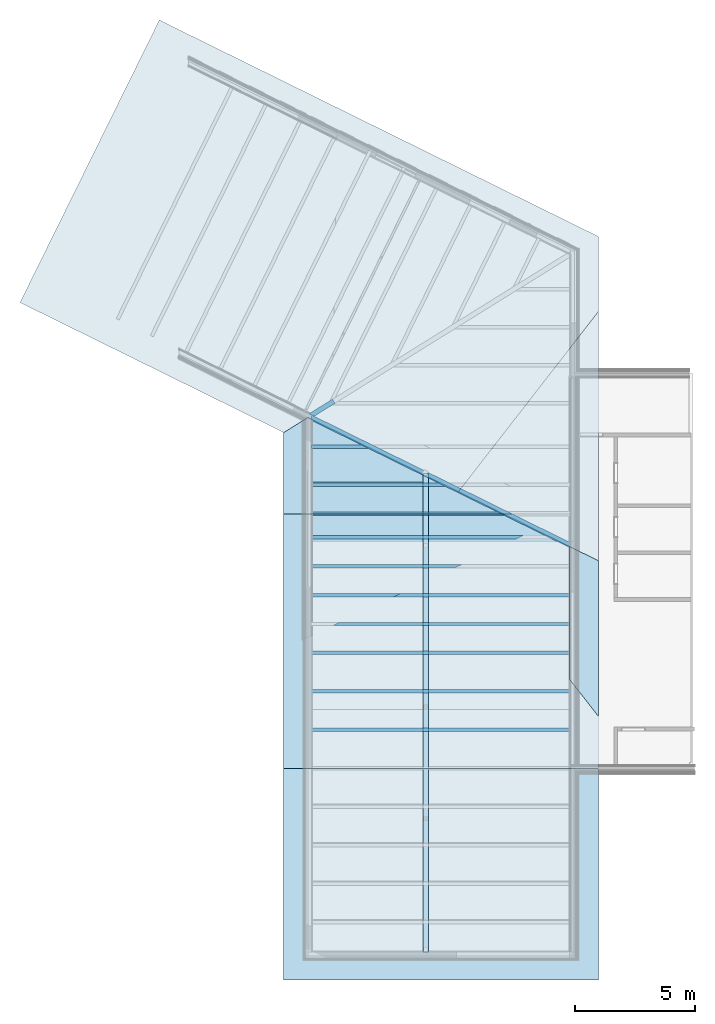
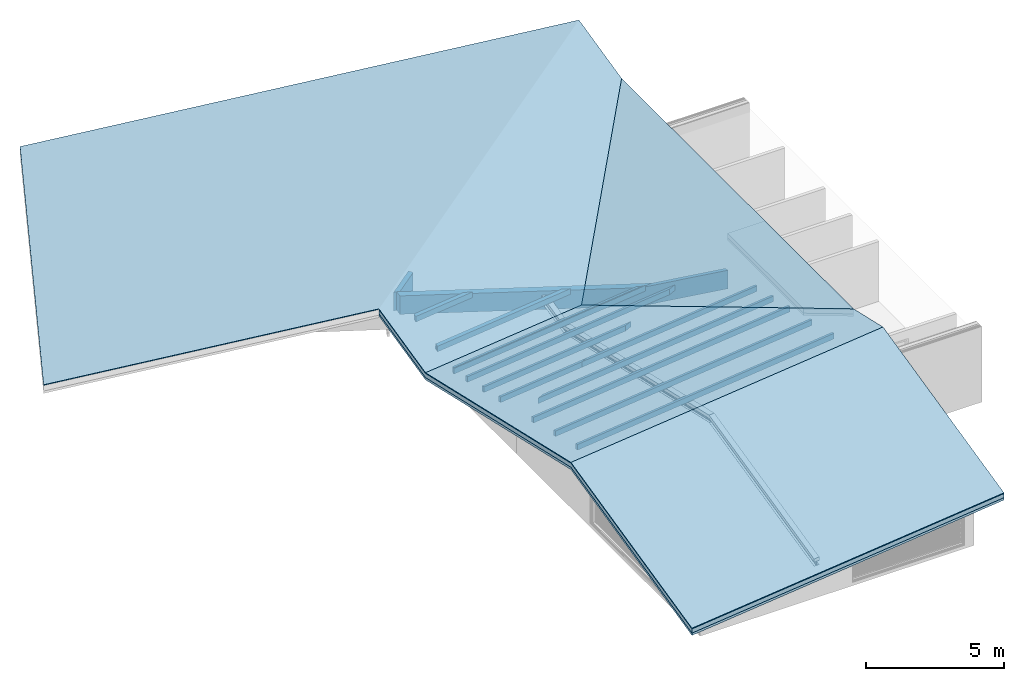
# One storey, part 12 of 14: 21 roofs.
"""IFC4 building model written with IfcOpenShell, lengths in metres."""

from ifc_helpers import new_model, entity, si_unit, converted_unit, derived_unit, frame, origin, place, context, subcontext, project, spatial, faceted_brep, material, element, save


model = new_model("IFC4")

# Units and contexts
model_context = context("Model", 3, precision=1e-05, world=origin())
body_context = subcontext(model_context, "Body", "Model", "MODEL_VIEW")
ifc_project = project(units=[si_unit("LENGTHUNIT", "METRE"), si_unit("AREAUNIT", "SQUARE_METRE"), si_unit("VOLUMEUNIT", "CUBIC_METRE"), si_unit("MASSUNIT", "GRAM", prefix="KILO"), converted_unit("PLANEANGLEUNIT", "DEGREE", entity("IfcPlaneAngleMeasure", 0.0174532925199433), si_unit("PLANEANGLEUNIT", "RADIAN"), dimensions=[0, 0, 0, 0, 0, 0, 0]), derived_unit("THERMALTRANSMITTANCEUNIT", [(si_unit("POWERUNIT", "WATT"), 1), (si_unit("THERMODYNAMICTEMPERATUREUNIT", "KELVIN"), -1), (si_unit("LENGTHUNIT", "METRE"), -2)]), derived_unit("VOLUMETRICFLOWRATEUNIT", [(si_unit("LENGTHUNIT", "METRE"), 3), (converted_unit("TIMEUNIT", "hour", entity("IfcTimeMeasure", 3600.0), si_unit("TIMEUNIT", "SECOND"), dimensions=[0, 0, 1, 0, 0, 0, 0]), -1), (si_unit("LENGTHUNIT", "METRE"), -1)])], contexts=[model_context])

# Site, building, storey
site_placement = place(None, origin())
site = spatial("IfcSite", under=ifc_project, at=site_placement, Name="Psychiatrie Neubau Wunstorf", CompositionType="ELEMENT")
building_placement = place(site_placement, origin())
building = spatial("IfcBuilding", under=site, at=building_placement, Name="Neubau H1 Sozialzentrum", CompositionType="ELEMENT")
storey_placement = place(building_placement, frame((0.0, 0.0, 4.45)))
storey = spatial("IfcBuildingStorey", under=building, at=storey_placement, Name="H1 Ebene +1", CompositionType="ELEMENT", Elevation=4.45)

# Roofs
ifc_material_1 = material(Name="Schwerlast-Deckenprofil")
roof_1_placement = place(storey_placement, frame((-16.0041462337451, 26.4968654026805, 0.403526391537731)))
element("IfcRoof", 1, at=roof_1_placement, inside=storey, material=ifc_material_1, PredefinedType="NOTDEFINED", context=body_context, shape_type="Brep", body=[
    faceted_brep([(0.0, 0.104152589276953, 0.0), (0.97208833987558, 0.70868446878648, 0.244742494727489), (0.97208833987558, 0.70868446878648, 1.06474249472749), (0.0, 0.104152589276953, 0.820000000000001), (1.02773992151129, 0.619196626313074, 1.07927492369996), (0.111441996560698, 0.0492056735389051, 0.848579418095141), (0.111441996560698, 0.0492056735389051, 0.0285794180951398), (1.02773992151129, 0.619196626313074, 0.259274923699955), (1.07770802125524, 0.538847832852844, 0.246226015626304), (1.07770802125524, 0.538847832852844, 1.0662260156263), (0.211239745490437, 0.0, 0.028109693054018), (0.211239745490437, 0.0, 0.848109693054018)], [[[0, 1, 2, 3]], [[3, 2, 4, 5]], [[1, 0, 6, 7]], [[8, 9, 4, 2, 1, 7]], [[8, 10, 11, 9]], [[10, 6, 0, 3, 5, 11]], [[11, 5, 4, 9]], [[6, 10, 8, 7]]], orient=[[False], [False], [False], [False], [False], [False], [False], [False]]),
])
ifc_material_2 = material(Name="Schwerlast-Deckenprofil")
roof_2_placement = place(storey_placement, frame((-15.8985267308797, 22.368112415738, 0.120141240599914)))
element("IfcRoof", 2, at=roof_2_placement, inside=storey, material=ifc_material_2, PredefinedType="NOTDEFINED", context=body_context, shape_type="Brep", body=[
    faceted_brep([(0.0, 0.14, 0.0168681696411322), (7.74325028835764, 0.14, 0.858525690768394), (7.74325028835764, 0.14, 1.10616972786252), (0.0, 0.14, 0.264512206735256), (7.89199642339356, 0.0666601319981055, 1.10546961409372), (0.0, 0.0666601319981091, 0.247644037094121), (0.0, 0.0666601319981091, 0.0), (7.89199642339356, 0.0666601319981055, 0.857825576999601), (0.0, 0.0, 0.0153318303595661), (0.0, 0.0, 0.262975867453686), (8.02719488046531, 0.0, 0.887852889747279), (8.02719488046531, 0.0, 1.1354969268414)], [[[0, 1, 2, 3]], [[3, 2, 4, 5]], [[1, 0, 6, 7]], [[8, 6, 0, 3, 5, 9]], [[10, 11, 4, 2, 1, 7]], [[10, 8, 9, 11]], [[11, 9, 5, 4]], [[8, 10, 7, 6]]], orient=[[False], [False], [False], [False], [False], [False], [False], [False]]),
])
ifc_material_3 = material(Name="Schwerlast-Deckenprofil")
roof_3_placement = place(storey_placement, frame((-15.8985257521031, 23.5772022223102, 0.38290017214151)))
element("IfcRoof", 3, at=roof_3_placement, inside=storey, material=ifc_material_3, PredefinedType="NOTDEFINED", context=body_context, shape_type="Brep", body=[
    faceted_brep([(5.57494738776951, 0.0, 0.605972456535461), (0.0, 0.0, 0.0), (0.0, 0.0, 0.247644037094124), (5.57494738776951, 0.0, 0.853616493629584), (0.0, 0.14, 0.0322000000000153), (0.0, 0.14, 0.279844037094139), (5.29100279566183, 0.14, 0.607308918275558), (5.29100279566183, 0.14, 0.854952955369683)], [[[0, 1, 2, 3]], [[1, 4, 5, 2]], [[4, 6, 7, 5]], [[6, 0, 3, 7]], [[7, 3, 2, 5]], [[0, 6, 4, 1]]], orient=[[False], [False], [False], [False], [False], [False]]),
])
ifc_material_4 = material(Name="Schwerlast-Deckenprofil")
roof_4_placement = place(storey_placement, frame((-15.8985267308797, 25.1572022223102, 0.746300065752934)))
element("IfcRoof", 4, at=roof_4_placement, inside=storey, material=ifc_material_4, PredefinedType="NOTDEFINED", context=body_context, shape_type="Brep", body=[
    faceted_brep([(2.37043082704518, 0.0, 0.257655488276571), (0.0, 0.0, 0.0), (0.0, 0.0, 0.247644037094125), (2.37043082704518, 0.0, 0.505299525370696), (0.0, 0.14, 0.0322000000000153), (0.0, 0.14, 0.27984403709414), (2.0864862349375, 0.14, 0.258991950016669), (2.0864862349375, 0.14, 0.506635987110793)], [[[0, 1, 2, 3]], [[1, 4, 5, 2]], [[4, 6, 7, 5]], [[6, 0, 3, 7]], [[7, 3, 2, 5]], [[0, 6, 4, 1]]], orient=[[False], [False], [False], [False], [False], [False]]),
])
ifc_material_5 = material(Name="Schwerlast-Deckenprofil")
roof_5_placement = place(storey_placement, frame((-15.8985267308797, 21.3903211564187, 0.328165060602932)))
element("IfcRoof", 5, at=roof_5_placement, inside=storey, material=ifc_material_5, PredefinedType="NOTDEFINED", context=body_context, shape_type="Brep", body=[
    faceted_brep([(0.0, 0.14, 0.0), (8.77972588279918, 0.14, 0.954317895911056), (8.77972588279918, 0.14, 1.20196193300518), (0.0, 0.14, 0.247644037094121), (8.48348570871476, 0.0, 0.954317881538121), (8.48348570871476, 0.0, 1.20196191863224), (0.0, 0.0, 0.0321999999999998), (0.0, 0.0, 0.279844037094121)], [[[0, 1, 2, 3]], [[1, 4, 5, 2]], [[4, 6, 7, 5]], [[6, 0, 3, 7]], [[7, 3, 2, 5]], [[0, 6, 4, 1]]], orient=[[False], [False], [False], [False], [False], [False]]),
])
ifc_material_6 = material(Name="Schwerlast-Deckenprofil")
roof_6_placement = place(storey_placement, frame((-15.8985267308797, 20.1903211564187, 0.604165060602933)))
element("IfcRoof", 6, at=roof_6_placement, inside=storey, material=ifc_material_6, PredefinedType="NOTDEFINED", context=body_context, shape_type="Brep", body=[
    faceted_brep([(0.0, 0.14, 0.0), (6.24052439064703, 0.14, 0.678317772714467), (6.24052439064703, 0.14, 0.925961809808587), (0.0, 0.14, 0.247644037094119), (5.94428421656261, 0.0, 0.678317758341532), (5.94428421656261, 0.0, 0.925961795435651), (0.0, 0.0, 0.0321999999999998), (0.0, 0.0, 0.27984403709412)], [[[0, 1, 2, 3]], [[1, 4, 5, 2]], [[4, 6, 7, 5]], [[6, 0, 3, 7]], [[7, 3, 2, 5]], [[0, 6, 4, 1]]], orient=[[False], [False], [False], [False], [False], [False]]),
])
ifc_material_7 = material(Name="Schwerlast-Deckenprofil")
roof_7_placement = place(storey_placement, frame((-15.8985267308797, 18.9903211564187, 0.880165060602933)))
element("IfcRoof", 7, at=roof_7_placement, inside=storey, material=ifc_material_7, PredefinedType="NOTDEFINED", context=body_context, shape_type="Brep", body=[
    faceted_brep([(0.0, 0.14, 0.0), (3.70132289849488, 0.14, 0.402317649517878), (3.70132289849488, 0.14, 0.649961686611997), (0.0, 0.14, 0.247644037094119), (3.40508272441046, 0.0, 0.402317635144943), (3.40508272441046, 0.0, 0.649961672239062), (0.0, 0.0, 0.0321999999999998), (0.0, 0.0, 0.27984403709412)], [[[0, 1, 2, 3]], [[1, 4, 5, 2]], [[4, 6, 7, 5]], [[6, 0, 3, 7]], [[7, 3, 2, 5]], [[0, 6, 4, 1]]], orient=[[False], [False], [False], [False], [False], [False]]),
])
ifc_material_8 = material(Name="Schwerlast-Deckenprofil")
roof_8_placement = place(storey_placement, frame((-11.2645268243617, 4.22632131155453, 0.293290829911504)))
element("IfcRoof", 8, at=roof_8_placement, inside=storey, material=ifc_material_8, PredefinedType="NOTDEFINED", context=body_context, shape_type="Brep", body=[
    faceted_brep([(0.22, 0.0, 0.862390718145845), (0.0, 0.0, 0.862390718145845), (0.0, 7.63400005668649, 2.61821073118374), (0.22, 7.63400005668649, 2.61821073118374), (0.1315, 0.0, 0.852643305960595), (0.22, 0.0, 0.852643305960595), (0.22, 7.63400005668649, 2.60846331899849), (0.1315, 7.63400005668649, 2.60846331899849), (0.125937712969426, 0.0, 0.851862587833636), (0.125937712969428, 7.63400005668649, 2.60768260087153), (0.120919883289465, 0.0, 0.849597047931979), (0.120919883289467, 7.63400005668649, 2.60541706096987), (0.116937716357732, 0.0, 0.846068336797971), (0.116937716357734, 7.63400005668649, 2.60188834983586), (0.114381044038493, 0.0, 0.841621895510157), (0.114381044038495, 7.63400005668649, 2.59744190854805), (0.1135, 0.0, 0.836692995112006), (0.1135, 7.63400005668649, 2.5925130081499), (0.114381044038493, 0.0, 0.697072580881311), (0.1135, 0.0, 0.702001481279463), (0.1135, 7.63400005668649, 2.45782149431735), (0.114381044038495, 7.63400005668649, 2.4528925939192), (0.116937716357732, 0.0, 0.692626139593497), (0.116937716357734, 7.63400005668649, 2.44844615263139), (0.120919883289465, 0.0, 0.68909742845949), (0.120919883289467, 7.63400005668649, 2.44491744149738), (0.125937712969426, 0.0, 0.686831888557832), (0.125937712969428, 7.63400005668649, 2.44265190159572), (0.1315, 0.0, 0.686051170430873), (0.1315, 7.63400005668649, 2.44187118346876), (0.22, 0.0, 0.686051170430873), (0.22, 7.63400005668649, 2.44187118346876), (0.0, 0.0, 0.676303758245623), (0.22, 0.0, 0.676303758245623), (0.22, 7.63400005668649, 2.43212377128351), (0.0, 7.63400005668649, 2.43212377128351), (0.0885, 0.0, 0.686051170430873), (0.0, 0.0, 0.686051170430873), (0.0, 7.63400005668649, 2.44187118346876), (0.0885000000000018, 7.63400005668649, 2.44187118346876), (0.0940622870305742, 0.0, 0.686831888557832), (0.0940622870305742, 7.63400005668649, 2.44265190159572), (0.0990801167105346, 0.0, 0.68909742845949), (0.0990801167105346, 7.63400005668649, 2.44491744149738), (0.103062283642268, 0.0, 0.692626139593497), (0.10306228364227, 7.63400005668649, 2.44844615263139), (0.105618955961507, 0.0, 0.697072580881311), (0.105618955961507, 7.63400005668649, 2.4528925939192), (0.1065, 0.0, 0.702001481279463), (0.106500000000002, 7.63400005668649, 2.45782149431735), (0.105618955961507, 0.0, 0.841621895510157), (0.1065, 0.0, 0.836692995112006), (0.106500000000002, 7.63400005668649, 2.5925130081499), (0.105618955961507, 7.63400005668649, 2.59744190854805), (0.103062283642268, 0.0, 0.846068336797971), (0.10306228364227, 7.63400005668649, 2.60188834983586), (0.0990801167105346, 0.0, 0.849597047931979), (0.0990801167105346, 7.63400005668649, 2.60541706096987), (0.0940622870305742, 0.0, 0.851862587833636), (0.0940622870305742, 7.63400005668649, 2.60768260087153), (0.0885, 0.0, 0.852643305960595), (0.0885000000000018, 7.63400005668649, 2.60846331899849), (0.0, 0.0, 0.852643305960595), (0.0, 7.63400005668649, 2.60846331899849), (0.0, 18.2084512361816, 0.186086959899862), (0.220000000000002, 18.2084512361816, 0.186086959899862), (0.220000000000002, 18.2084512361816, 0.176339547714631), (0.131500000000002, 18.2084512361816, 0.176339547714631), (0.125937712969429, 18.2084512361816, 0.175558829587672), (0.120919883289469, 18.2084512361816, 0.173293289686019), (0.116937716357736, 18.2084512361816, 0.169764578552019), (0.114381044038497, 18.2084512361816, 0.165318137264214), (0.113500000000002, 18.2084512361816, 0.160389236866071), (0.113500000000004, 18.2084512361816, 0.0256977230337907), (0.114381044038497, 18.2084512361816, 0.0207688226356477), (0.116937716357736, 18.2084512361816, 0.0163223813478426), (0.120919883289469, 18.2084512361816, 0.0127936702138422), (0.125937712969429, 18.2084512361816, 0.0105281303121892), (0.131500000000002, 18.2084512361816, 0.00974741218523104), (0.220000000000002, 18.2084512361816, 0.00974741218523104), (0.220000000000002, 18.2084512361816, 0.0), (0.0, 18.2084512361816, 0.0), (0.0, 18.2084512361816, 0.00974741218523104), (0.0885000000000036, 18.2084512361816, 0.00974741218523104), (0.0940622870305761, 18.2084512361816, 0.0105281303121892), (0.0990801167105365, 18.2084512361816, 0.0127936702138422), (0.103062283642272, 18.2084512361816, 0.0163223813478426), (0.105618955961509, 18.2084512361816, 0.0207688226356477), (0.106500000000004, 18.2084512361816, 0.0256977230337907), (0.106500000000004, 18.2084512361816, 0.160389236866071), (0.105618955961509, 18.2084512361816, 0.165318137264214), (0.103062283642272, 18.2084512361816, 0.169764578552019), (0.0990801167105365, 18.2084512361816, 0.173293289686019), (0.0940622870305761, 18.2084512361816, 0.175558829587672), (0.0885000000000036, 18.2084512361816, 0.176339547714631), (0.0, 18.2084512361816, 0.176339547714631), (0.0, 19.8999519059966, 0.57513211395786), (0.220000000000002, 19.8999519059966, 0.57513211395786), (0.220000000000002, 19.8999519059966, 0.56538470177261), (0.131500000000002, 19.8999519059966, 0.56538470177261), (0.125937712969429, 19.8999519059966, 0.56460398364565), (0.120919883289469, 19.8999519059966, 0.562338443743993), (0.116937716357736, 19.8999519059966, 0.558809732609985), (0.114381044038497, 19.8999519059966, 0.55436329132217), (0.113500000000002, 19.8999519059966, 0.549434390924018), (0.113500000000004, 19.8999519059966, 0.414742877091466), (0.114381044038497, 19.8999519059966, 0.409813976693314), (0.116937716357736, 19.8999519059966, 0.405367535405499), (0.120919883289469, 19.8999519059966, 0.401838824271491), (0.125937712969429, 19.8999519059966, 0.399573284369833), (0.131500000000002, 19.8999519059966, 0.398792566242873), (0.220000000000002, 19.8999519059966, 0.398792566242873), (0.220000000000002, 19.8999519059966, 0.389045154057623), (0.0, 19.8999519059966, 0.389045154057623), (0.0, 19.8999519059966, 0.398792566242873), (0.0885000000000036, 19.8999519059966, 0.398792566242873), (0.0940622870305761, 19.8999519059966, 0.399573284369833), (0.0990801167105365, 19.8999519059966, 0.401838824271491), (0.103062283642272, 19.8999519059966, 0.405367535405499), (0.105618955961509, 19.8999519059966, 0.409813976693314), (0.106500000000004, 19.8999519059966, 0.414742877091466), (0.106500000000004, 19.8999519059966, 0.549434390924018), (0.105618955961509, 19.8999519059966, 0.55436329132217), (0.103062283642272, 19.8999519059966, 0.558809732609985), (0.0990801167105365, 19.8999519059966, 0.562338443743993), (0.0940622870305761, 19.8999519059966, 0.56460398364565), (0.0885000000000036, 19.8999519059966, 0.56538470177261), (0.0, 19.8999519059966, 0.56538470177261)], [[[0, 1, 2, 3]], [[4, 5, 6, 7]], [[8, 4, 7, 9]], [[10, 8, 9, 11]], [[12, 10, 11, 13]], [[14, 12, 13, 15]], [[16, 14, 15, 17]], [[18, 19, 20, 21]], [[22, 18, 21, 23]], [[24, 22, 23, 25]], [[26, 24, 25, 27]], [[28, 26, 27, 29]], [[30, 28, 29, 31]], [[32, 33, 34, 35]], [[36, 37, 38, 39]], [[40, 36, 39, 41]], [[42, 40, 41, 43]], [[44, 42, 43, 45]], [[46, 44, 45, 47]], [[48, 46, 47, 49]], [[50, 51, 52, 53]], [[54, 50, 53, 55]], [[56, 54, 55, 57]], [[58, 56, 57, 59]], [[60, 58, 59, 61]], [[62, 60, 61, 63]], [[3, 2, 64, 65]], [[7, 6, 66, 67]], [[9, 7, 67, 68]], [[11, 9, 68, 69]], [[13, 11, 69, 70]], [[15, 13, 70, 71]], [[17, 15, 71, 72]], [[21, 20, 73, 74]], [[23, 21, 74, 75]], [[25, 23, 75, 76]], [[27, 25, 76, 77]], [[29, 27, 77, 78]], [[31, 29, 78, 79]], [[35, 34, 80, 81]], [[39, 38, 82, 83]], [[41, 39, 83, 84]], [[43, 41, 84, 85]], [[45, 43, 85, 86]], [[47, 45, 86, 87]], [[49, 47, 87, 88]], [[53, 52, 89, 90]], [[55, 53, 90, 91]], [[57, 55, 91, 92]], [[59, 57, 92, 93]], [[61, 59, 93, 94]], [[63, 61, 94, 95]], [[65, 64, 96, 97]], [[67, 66, 98, 99]], [[68, 67, 99, 100]], [[69, 68, 100, 101]], [[70, 69, 101, 102]], [[71, 70, 102, 103]], [[72, 71, 103, 104]], [[19, 16, 17, 72, 104, 105, 73, 20]], [[74, 73, 105, 106]], [[75, 74, 106, 107]], [[76, 75, 107, 108]], [[77, 76, 108, 109]], [[78, 77, 109, 110]], [[79, 78, 110, 111]], [[81, 80, 112, 113]], [[83, 82, 114, 115]], [[84, 83, 115, 116]], [[85, 84, 116, 117]], [[86, 85, 117, 118]], [[87, 86, 118, 119]], [[88, 87, 119, 120]], [[51, 48, 49, 88, 120, 121, 89, 52]], [[90, 89, 121, 122]], [[91, 90, 122, 123]], [[92, 91, 123, 124]], [[93, 92, 124, 125]], [[94, 93, 125, 126]], [[95, 94, 126, 127]], [[96, 127, 126, 125, 124, 123, 122, 121, 120, 119, 118, 117, 116, 115, 114, 113, 112, 111, 110, 109, 108, 107, 106, 105, 104, 103, 102, 101, 100, 99, 98, 97]], [[97, 98, 66, 6, 5, 0, 3, 65]], [[111, 112, 80, 34, 33, 30, 31, 79]], [[0, 5, 4, 8, 10, 12, 14, 16, 19, 18, 22, 24, 26, 28, 30, 33, 32, 37, 36, 40, 42, 44, 46, 48, 51, 50, 54, 56, 58, 60, 62, 1]], [[37, 32, 35, 81, 113, 114, 82, 38]], [[1, 62, 63, 95, 127, 96, 64, 2]]], orient=[[False], [False], [False], [False], [False], [False], [False], [False], [False], [False], [False], [False], [False], [False], [False], [False], [False], [False], [False], [False], [False], [False], [False], [False], [False], [False], [False], [False], [False], [False], [False], [False], [False], [False], [False], [False], [False], [False], [False], [False], [False], [False], [False], [False], [False], [False], [False], [False], [False], [False], [False], [False], [False], [False], [False], [False], [False], [False], [False], [False], [False], [False], [False], [False], [False], [False], [False], [False], [False], [False], [False], [False], [False], [False], [False], [False], [False], [False], [False], [False], [False], [False], [False], [False], [False], [False]]),
])
ifc_material_9 = material(Name="Schwerlast-Deckenprofil")
roof_9_placement = place(storey_placement, frame((-11.2645268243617, 4.22632131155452, 0.479377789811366)))
element("IfcRoof", 9, at=roof_9_placement, inside=storey, material=ifc_material_9, PredefinedType="NOTDEFINED", context=body_context, shape_type="Brep", body=[
    faceted_brep([(0.22, 0.0, 0.70021679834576), (0.0, 0.0, 0.676303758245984), (0.0, 0.0, 0.82076277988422), (0.22, 0.0, 0.844675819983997), (0.0, 7.63400005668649, 2.57658279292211), (0.22, 7.63400005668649, 2.60049583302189), (0.22, 7.63400005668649, 2.45603681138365), (0.0, 7.63400005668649, 2.43212377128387), (0.0, 18.2084512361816, 0.144459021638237), (0.220000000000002, 18.2084512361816, 0.168372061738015), (0.220000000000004, 19.8999519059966, 0.557417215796), (0.220000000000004, 19.8999519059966, 0.412958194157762), (0.220000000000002, 18.2084512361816, 0.0239130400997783), (0.0, 18.2084512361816, 0.0), (0.0, 19.8999519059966, 0.389045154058), (0.0, 19.8999519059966, 0.533504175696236)], [[[0, 1, 2, 3]], [[3, 2, 4, 5]], [[1, 0, 6, 7]], [[5, 4, 8, 9]], [[6, 0, 3, 5, 9, 10, 11, 12]], [[13, 14, 15, 8, 4, 2, 1, 7]], [[7, 6, 12, 13]], [[14, 11, 10, 15]], [[15, 10, 9, 8]], [[11, 14, 13, 12]]], orient=[[False], [False], [False], [False], [False], [False], [False], [False], [False], [False]]),
])
ifc_material_10 = material(Name="Schwerlast-Deckenprofil")
roof_10_placement = place(storey_placement, frame((-15.8985267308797, 21.034496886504, 0.343699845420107)))
element("IfcRoof", 10, at=roof_10_placement, inside=storey, material=ifc_material_10, PredefinedType="NOTDEFINED", context=body_context, shape_type="Brep", body=[
    faceted_brep([(0.0, 5.51444458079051, 0.906911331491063), (0.00582212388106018, 5.51157395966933, 0.908405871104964), (0.0, 5.50795225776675, 0.906940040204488), (0.00582212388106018, 5.51157395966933, 0.0884058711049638), (0.0, 5.51444458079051, 0.0869113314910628), (0.0, 5.50795225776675, 0.0869400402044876), (4.63399990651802, 3.0917763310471, 0.669182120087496), (4.63399990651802, 3.0917763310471, 0.314723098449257), (4.63399990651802, 3.0066436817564, 0.295142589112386), (4.63399990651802, 3.0066436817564, 0.649601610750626), (4.85399990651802, 3.0917763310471, 0.693095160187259), (4.85399990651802, 3.0917763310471, 0.338636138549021), (4.85399990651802, 2.89817181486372, 0.294107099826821), (4.85399990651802, 2.89817181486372, 0.648566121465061), (0.0, 5.2914555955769, 0.0371458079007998), (0.0, 5.2914555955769, 0.857145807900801), (8.34425725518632, 1.40027566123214, 0.869158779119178), (7.89199642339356, 1.40027566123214, 0.82), (7.89199642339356, 1.40027566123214, 0.0), (8.34425725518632, 1.40027566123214, 0.0491587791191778), (10.7320014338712, 0.0, 0.630759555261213), (10.7320014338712, 0.0, 1.45075955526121), (10.7320014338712, 0.222988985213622, 0.579472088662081), (10.7320014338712, 0.222988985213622, 1.39947208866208)], [[[0, 1, 2]], [[3, 4, 5]], [[6, 7, 8, 9]], [[10, 11, 7, 6]], [[11, 12, 8, 7]], [[13, 12, 11, 10]], [[6, 9, 13, 10]], [[14, 5, 4, 0, 2, 15]], [[15, 2, 1, 16, 17]], [[5, 14, 18, 19, 3]], [[20, 18, 14, 15, 17, 21], [13, 9, 8, 12]], [[22, 23, 16, 1, 0, 4, 3, 19]], [[22, 20, 21, 23]], [[23, 21, 17, 16]], [[20, 22, 19, 18]]], orient=[[False], [False], [False], [False], [False], [False], [False], [False], [False], [False], [False, False], [False], [False], [False], [False]]),
])
ifc_material_11 = material(Name="Schwerlast-Deckenprofil")
roof_11_placement = place(storey_placement, frame((-15.8985267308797, 14.9903211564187, 1.80016506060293)))
element("IfcRoof", 11, at=roof_11_placement, inside=storey, material=ifc_material_11, PredefinedType="NOTDEFINED", context=body_context, shape_type="Brep", body=[
    faceted_brep([(10.7680016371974, 0.0, 1.20263479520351), (0.0, 0.0, 0.0322000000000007), (0.0, 0.0, 0.27984403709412), (10.7680016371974, 0.0, 1.45027883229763), (0.0, 0.14, 0.0), (0.0, 0.14, 0.24764403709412), (10.7680016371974, 0.14, 1.17043479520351), (10.7680016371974, 0.14, 1.41807883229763)], [[[0, 1, 2, 3]], [[1, 4, 5, 2]], [[4, 6, 7, 5]], [[6, 0, 3, 7]], [[7, 3, 2, 5]], [[0, 6, 4, 1]]], orient=[[False], [False], [False], [False], [False], [False]]),
])
ifc_material_12 = material(Name="Schwerlast-Deckenprofil")
roof_12_placement = place(storey_placement, frame((-15.8985267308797, 16.5903211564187, 1.43216506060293)))
element("IfcRoof", 12, at=roof_12_placement, inside=storey, material=ifc_material_12, PredefinedType="NOTDEFINED", context=body_context, shape_type="Brep", body=[
    faceted_brep([(10.7680016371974, 0.0, 1.20263479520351), (0.0, 0.0, 0.0321999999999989), (0.0, 0.0, 0.279844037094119), (10.7680016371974, 0.0, 1.45027883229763), (0.0, 0.14, 0.0), (0.0, 0.14, 0.247644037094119), (10.7680016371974, 0.14, 1.17043479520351), (10.7680016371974, 0.14, 1.41807883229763)], [[[0, 1, 2, 3]], [[1, 4, 5, 2]], [[4, 6, 7, 5]], [[6, 0, 3, 7]], [[7, 3, 2, 5]], [[0, 6, 4, 1]]], orient=[[False], [False], [False], [False], [False], [False]]),
])
ifc_material_13 = material(Name="Schwerlast-Deckenprofil")
roof_13_placement = place(storey_placement, frame((-15.8985267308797, 13.3903211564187, 2.16816506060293)))
element("IfcRoof", 13, at=roof_13_placement, inside=storey, material=ifc_material_13, PredefinedType="NOTDEFINED", context=body_context, shape_type="Brep", body=[
    faceted_brep([(10.7680016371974, 0.0, 1.20263479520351), (0.0, 0.0, 0.0321999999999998), (0.0, 0.0, 0.279844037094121), (10.7680016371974, 0.0, 1.45027883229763), (0.0, 0.14, 0.0), (0.0, 0.14, 0.24764403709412), (10.7680016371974, 0.14, 1.17043479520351), (10.7680016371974, 0.14, 1.41807883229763)], [[[0, 1, 2, 3]], [[1, 4, 5, 2]], [[4, 6, 7, 5]], [[6, 0, 3, 7]], [[7, 3, 2, 5]], [[0, 6, 4, 1]]], orient=[[False], [False], [False], [False], [False], [False]]),
])
ifc_material_14 = material(Name="Schwerlast-Deckenprofil")
roof_14_placement = place(storey_placement, frame((-12.4934440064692, 18.9903211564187, 1.28248269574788)))
element("IfcRoof", 14, at=roof_14_placement, inside=storey, material=ifc_material_14, PredefinedType="NOTDEFINED", context=body_context, shape_type="Brep", body=[
    faceted_brep([(7.36291913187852, 0.0, 0.800317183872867), (0.0, 0.0, 0.0), (0.0, 0.0, 0.247644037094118), (7.36291913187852, 0.0, 1.04796122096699), (0.296240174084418, 0.14, 1.43729339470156e-08), (0.296240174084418, 0.14, 0.247644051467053), (7.36291913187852, 0.14, 0.768117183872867), (7.36291913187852, 0.14, 1.01576122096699)], [[[0, 1, 2, 3]], [[1, 4, 5, 2]], [[4, 6, 7, 5]], [[6, 0, 3, 7]], [[7, 3, 2, 5]], [[0, 6, 4, 1]]], orient=[[False], [False], [False], [False], [False], [False]]),
])
ifc_material_15 = material(Name="Schwerlast-Deckenprofil")
roof_15_placement = place(storey_placement, frame((-15.0326454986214, 17.7903211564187, 1.28248257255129)))
element("IfcRoof", 15, at=roof_15_placement, inside=storey, material=ifc_material_15, PredefinedType="NOTDEFINED", context=body_context, shape_type="Brep", body=[
    faceted_brep([(9.90212051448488, 0.0, 1.07631729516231), (0.0, 0.0, 0.0), (0.0, 0.0, 0.247644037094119), (9.90212051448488, 0.0, 1.32396133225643), (0.296240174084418, 0.14, 1.4372935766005e-08), (0.296240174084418, 0.14, 0.247644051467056), (9.90212051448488, 0.14, 1.04411729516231), (9.90212051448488, 0.14, 1.29176133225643)], [[[0, 1, 2, 3]], [[1, 4, 5, 2]], [[4, 6, 7, 5]], [[6, 0, 3, 7]], [[7, 3, 2, 5]], [[0, 6, 4, 1]]], orient=[[False], [False], [False], [False], [False], [False]]),
])
roof_16_placement = place(storey_placement, frame((-15.9008642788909, 23.5789633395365, 0.394184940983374)))
element("IfcRoof", 16, at=roof_16_placement, inside=storey, PredefinedType="NOTDEFINED", context=body_context, shape_type="Brep", body=[
    faceted_brep([(0.00402457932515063, 0.0, 0.235410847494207), (4.58844768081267, 1.21713310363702e-08, 0.733717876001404), (4.58779520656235, 0.0534961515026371, 0.498307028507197), (0.00337210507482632, 0.0534961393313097, 0.0), (4.58442310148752, 0.189973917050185, 0.529330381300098), (0.0, 0.189973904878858, 0.0310233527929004), (4.58507557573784, 0.136477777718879, 0.764741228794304), (0.000652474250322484, 0.136477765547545, 0.266434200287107)], [[[0, 1, 2, 3]], [[3, 2, 4, 5]], [[6, 4, 2, 1]], [[7, 0, 3, 5]], [[5, 4, 6, 7]], [[7, 6, 1, 0]]], orient=[[False], [False], [False], [False], [False], [False]]),
])
ifc_material_16 = material(Name="Dachhaut")
roof_17_placement = place(storey_placement, frame((-5.16652529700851, 14.0045944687, 3.10287755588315)))
element("IfcRoof", 17, at=roof_17_placement, inside=storey, material=ifc_material_16, PredefinedType="NOTDEFINED", context=body_context, shape_type="Brep", body=[
    faceted_brep([(1.20200024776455, 6.48184952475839, 0.486470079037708), (1.20200024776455, 0.0, 0.486470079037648), (1.20200024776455, 0.0, 0.594349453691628), (1.20200024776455, 6.48184952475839, 0.594349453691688), (0.0, 1.54703433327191, 0.0), (0.0, 1.54703433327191, 0.107879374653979), (0.0, 7.07450048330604, 0.0), (0.0, 7.07450048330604, 0.10787937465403)], [[[0, 1, 2, 3]], [[1, 4, 5, 2]], [[4, 6, 7, 5]], [[6, 0, 3, 7]], [[7, 3, 2, 5]], [[0, 6, 4, 1]]], orient=[[False], [False], [False], [False], [False], [False]]),
])
ifc_material_17 = material(Name="Dachhaut")
roof_18_placement = place(storey_placement, frame((-17.0645266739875, 3.06032136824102, 0.24104617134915)))
element("IfcRoof", 18, at=roof_18_placement, inside=storey, material=ifc_material_17, PredefinedType="NOTDEFINED", context=body_context, shape_type="Brep", body=[
    faceted_brep([(13.1000016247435, 0.0, 1.83203679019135), (0.0, 0.0, 0.408123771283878), (0.0, 0.0, 0.51130878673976), (13.1000016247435, 0.0, 1.93522180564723), (0.0, 8.8, 2.53530878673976), (13.1000016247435, 8.8, 3.95922180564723), (13.1000016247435, 8.8, 3.85603679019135), (0.0, 8.8, 2.43212377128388), (0.0, 19.3744511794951, 0.103185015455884), (9.14844907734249, 19.3744511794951, 1.09758151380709), (11.898001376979, 18.018773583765, 1.70825169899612), (11.898001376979, 12.4913074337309, 2.97956891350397), (13.1000016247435, 10.9442731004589, 3.46603899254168), (0.0, 19.3744511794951, 0.0), (0.0, 22.7568075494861, 0.77794196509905), (0.0, 22.7568075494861, 0.881126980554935), (13.1000016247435, 10.9442731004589, 3.36285397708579), (11.898001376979, 12.4913074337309, 2.87638389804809), (11.898001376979, 18.018773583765, 1.60506668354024), (1.01184634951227, 23.3862352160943, 1.13587862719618), (1.01184634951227, 23.3862352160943, 1.0326936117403), (9.14844907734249, 19.3744511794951, 0.994396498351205)], [[[0, 1, 2, 3]], [[3, 2, 4, 5]], [[1, 0, 6, 7]], [[4, 8, 9, 10, 11, 12, 5]], [[13, 14, 15, 8, 4, 2, 1, 7]], [[16, 6, 0, 3, 5, 12]], [[17, 16, 12, 11]], [[18, 17, 11, 10]], [[18, 10, 9, 19, 20, 21]], [[13, 7, 6, 16, 17, 18, 21]], [[14, 20, 19, 15]], [[19, 9, 8, 15]], [[21, 20, 14, 13]]], orient=[[False], [False], [False], [False], [False], [False], [False], [False], [False], [False], [False], [False], [False]]),
])
ifc_material_18 = material(Name="Dachhaut")
roof_19_placement = place(storey_placement, frame((-17.0645266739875, 3.06032136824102, 0.344231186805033)))
element("IfcRoof", 19, at=roof_19_placement, inside=storey, material=ifc_material_18, PredefinedType="NOTDEFINED", context=body_context, shape_type="Brep", body=[
    faceted_brep([(13.1000016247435, 0.0, 1.83203679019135), (0.0, 0.0, 0.408123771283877), (0.0, 0.0, 0.593856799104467), (13.1000016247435, 0.0, 2.01776981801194), (0.0, 8.8, 2.61785679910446), (13.1000016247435, 8.8, 4.04176981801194), (13.1000016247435, 8.8, 3.85603679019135), (0.0, 8.8, 2.43212377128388), (0.0, 19.3744511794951, 0.18573302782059), (9.14844907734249, 19.3744511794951, 1.18012952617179), (11.898001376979, 18.018773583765, 1.79079971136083), (11.898001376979, 12.4913074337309, 3.06211692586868), (13.1000016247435, 10.9442731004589, 3.54858700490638), (0.0, 19.3744511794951, 0.0), (0.0, 22.7568075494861, 0.777941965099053), (0.0, 22.7568075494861, 0.963674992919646), (13.1000016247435, 10.9442731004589, 3.36285397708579), (11.898001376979, 12.4913074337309, 2.87638389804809), (11.898001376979, 18.018773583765, 1.60506668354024), (1.01184634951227, 23.3862352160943, 1.21842663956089), (1.01184634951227, 23.3862352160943, 1.0326936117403), (9.14844907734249, 19.3744511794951, 0.994396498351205)], [[[0, 1, 2, 3]], [[3, 2, 4, 5]], [[1, 0, 6, 7]], [[4, 8, 9, 10, 11, 12, 5]], [[13, 14, 15, 8, 4, 2, 1, 7]], [[16, 6, 0, 3, 5, 12]], [[17, 16, 12, 11]], [[18, 17, 11, 10]], [[18, 10, 9, 19, 20, 21]], [[13, 7, 6, 16, 17, 18, 21]], [[14, 20, 19, 15]], [[19, 9, 8, 15]], [[21, 20, 14, 13]]], orient=[[False], [False], [False], [False], [False], [False], [False], [False], [False], [False], [False], [False], [False]]),
])
ifc_material_19 = material(Name="Dachhaut")
roof_20_placement = place(storey_placement, frame((-5.16652529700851, 14.0045944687, 3.21075693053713)))
element("IfcRoof", 20, at=roof_20_placement, inside=storey, material=ifc_material_19, PredefinedType="NOTDEFINED", context=body_context, shape_type="Brep", body=[
    faceted_brep([(1.20200024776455, 6.48184952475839, 0.48647007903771), (1.20200024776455, 0.0, 0.486470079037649), (1.20200024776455, 0.0, 0.68065295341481), (1.20200024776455, 6.48184952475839, 0.68065295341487), (0.0, 1.54703433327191, 0.0), (0.0, 1.54703433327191, 0.19418287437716), (0.0, 7.07450048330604, 0.0), (0.0, 7.07450048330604, 0.194182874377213)], [[[0, 1, 2, 3]], [[1, 4, 5, 2]], [[4, 6, 7, 5]], [[6, 0, 3, 7]], [[7, 3, 2, 5]], [[0, 6, 4, 1]]], orient=[[False], [False], [False], [False], [False], [False]]),
])
ifc_material_20 = material(Name="Dachhaut")
roof_21_placement = place(storey_placement, frame((-28.0216737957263, 3.06032136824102, -1.50194353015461)))
element("IfcRoof", 21, at=roof_21_placement, inside=storey, material=ifc_material_20, PredefinedType="NOTDEFINED", context=body_context, shape_type="Brep", body=[
    faceted_brep([(0.0, 28.1659602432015, 0.0), (5.79128373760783, 39.9117009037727, 1.42397606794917), (5.79128373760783, 39.9117009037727, 1.45493169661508), (0.0, 28.1659602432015, 0.0309556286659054), (10.9571471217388, 22.7634956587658, 2.80982158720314), (10.9571471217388, 22.7634956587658, 2.84077721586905), (24.0569832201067, 30.9056725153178, 6.13893918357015), (10.9571471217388, 22.7568075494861, 2.8408052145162), (10.9571471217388, 22.7568075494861, 2.80984970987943), (24.0569832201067, 30.9056725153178, 6.10798367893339), (24.0571487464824, 10.9442731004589, 5.39335341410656), (24.0571487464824, 27.8046292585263, 5.39335341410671), (17.5071479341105, 19.3744511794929, 2.74245594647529), (24.0571487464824, 27.8046292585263, 5.39476172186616), (17.5071479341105, 19.3744511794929, 2.74386425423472), (24.0571487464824, 10.9442731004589, 5.39476172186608), (24.0571487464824, 30.9055909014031, 6.1389384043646), (24.0571487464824, 27.8046292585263, 5.42571722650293), (17.5071479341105, 19.3744511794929, 2.77481975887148), (10.9571471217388, 19.3744511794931, 2.06286324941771), (24.0571487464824, 10.9442731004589, 5.42571722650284), (24.0571487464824, 30.9055909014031, 6.10798289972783), (10.9571471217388, 19.3744511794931, 2.03190774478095), (10.9571471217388, 8.8, 4.49498702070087), (10.9571471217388, 0.0, 2.47098702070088), (10.9571471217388, 0.0, 2.44003151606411), (10.9571471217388, 8.8, 4.46403151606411), (24.0571487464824, 8.8, 5.88794453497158), (24.0571487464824, 0.0, 3.86394453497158), (24.0571487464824, 0.0, 3.89490003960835), (24.0571487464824, 8.8, 5.91890003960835)], [[[0, 1, 2, 3]], [[4, 0, 3, 5]], [[5, 3, 2, 6, 7]], [[0, 4, 8, 9, 1]], [[10, 11, 12]], [[12, 11, 13, 14]], [[10, 12, 14, 15]], [[7, 6, 16, 17, 18, 19]], [[17, 20, 18]], [[21, 16, 6, 2, 1, 9]], [[9, 8, 22, 14, 13, 21]], [[22, 8, 4, 5, 7, 19, 23, 24, 25, 26]], [[27, 28, 29, 30, 20, 17, 16, 21, 13, 11, 10, 15]], [[15, 14, 22, 26, 27]], [[18, 20, 30, 23, 19]], [[28, 25, 24, 29]], [[29, 24, 23, 30]], [[25, 28, 27, 26]]], orient=[[False], [False], [False], [False], [False], [False], [False], [False], [False], [False], [False], [False], [False], [False], [False], [False], [False], [False]]),
])

save(model, "model.ifc")
